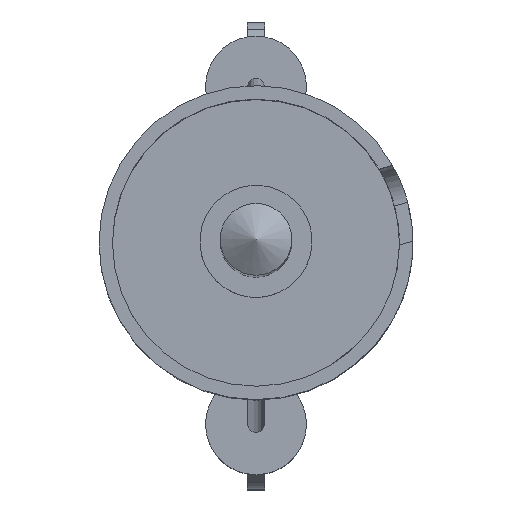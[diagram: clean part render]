
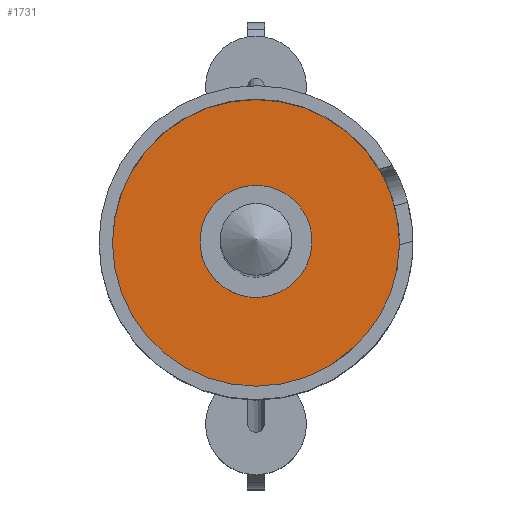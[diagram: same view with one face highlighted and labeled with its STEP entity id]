
A CAD part, top view. The second image highlights one B-rep face of the part: STEP entity #1731.
In plain terms, the highlighted planar face has unit normal (0, 0, 1).
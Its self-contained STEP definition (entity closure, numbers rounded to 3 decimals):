
#22 = CARTESIAN_POINT ( 'NONE',  ( -0.072, 1.921, 4. ) ) ;
#52 = CARTESIAN_POINT ( 'NONE',  ( -0.358, 2.161, 4. ) ) ;
#75 = CARTESIAN_POINT ( 'NONE',  ( -1.42, 0.95, 4. ) ) ;
#79 = CARTESIAN_POINT ( 'NONE',  ( -2.264, 0.169, 4. ) ) ;
#114 = CARTESIAN_POINT ( 'NONE',  ( -0.129, 1.891, 4. ) ) ;
#325 = EDGE_CURVE ( 'NONE', #6459, #6459, #1922, .T. ) ;
#451 = CARTESIAN_POINT ( 'NONE',  ( -1.708, 0.332, 4. ) ) ;
#475 = CARTESIAN_POINT ( 'NONE',  ( -0.364, 1.788, 4. ) ) ;
#505 = CARTESIAN_POINT ( 'NONE',  ( -2.19, -0.331, 4. ) ) ;
#536 = CARTESIAN_POINT ( 'NONE',  ( -0.054, 1.932, 4. ) ) ;
#558 = FACE_BOUND ( 'NONE', #4162, .T. ) ;
#601 = CARTESIAN_POINT ( 'NONE',  ( -0.532, 2.15, 4. ) ) ;
#732 = DIRECTION ( 'NONE',  ( 0., 0., 1. ) ) ;
#797 = CARTESIAN_POINT ( 'NONE',  ( 0., 0., 4. ) ) ;
#877 = CARTESIAN_POINT ( 'NONE',  ( 0., 0., 4. ) ) ;
#888 = CARTESIAN_POINT ( 'NONE',  ( 0., 0., 4. ) ) ;
#969 = CARTESIAN_POINT ( 'NONE',  ( -1.806, -0.684, 4. ) ) ;
#1022 = CARTESIAN_POINT ( 'NONE',  ( -1.825, 1.423, 4. ) ) ;
#1087 = VERTEX_POINT ( 'NONE', #1463 ) ;
#1126 = CARTESIAN_POINT ( 'NONE',  ( -2.089, 0.992, 4. ) ) ;
#1321 = DIRECTION ( 'NONE',  ( 0.866, -0.5, 0. ) ) ;
#1351 = CARTESIAN_POINT ( 'NONE',  ( -1.939, -0.747, 4. ) ) ;
#1463 = CARTESIAN_POINT ( 'NONE',  ( 1.6, 0., 4. ) ) ;
#1469 = CARTESIAN_POINT ( 'NONE',  ( -1.792, -0.343, 4. ) ) ;
#1503 = CARTESIAN_POINT ( 'NONE',  ( -0.865, 2.085, 4. ) ) ;
#1531 = CARTESIAN_POINT ( 'NONE',  ( -1.323, 1.875, 4. ) ) ;
#1592 = CARTESIAN_POINT ( 'NONE',  ( -0.956, 1.456, 4. ) ) ;
#1629 = CARTESIAN_POINT ( 'NONE',  ( -1.463, 1.777, 4. ) ) ;
#1731 = ADVANCED_FACE ( 'NONE', ( #5088, #558, #2579 ), #2783, .T. ) ;
#1922 = CIRCLE ( 'NONE', #4231, 6.4 ) ;
#2031 = CARTESIAN_POINT ( 'NONE',  ( -2.256, 0., 4. ) ) ;
#2058 = CARTESIAN_POINT ( 'NONE',  ( -0.02, 1.958, 4. ) ) ;
#2123 = CARTESIAN_POINT ( 'NONE',  ( -0.816, 1.554, 4. ) ) ;
#2161 = ORIENTED_EDGE ( 'NONE', *, *, #325, .F. ) ;
#2304 = EDGE_CURVE ( 'NONE', #4601, #4601, #4856, .T. ) ;
#2383 = CARTESIAN_POINT ( 'NONE',  ( -1.881, -0.776, 4. ) ) ;
#2418 = CARTESIAN_POINT ( 'NONE',  ( -1.592, 0.655, 4. ) ) ;
#2477 = CARTESIAN_POINT ( 'NONE',  ( -1.747, 0.165, 4. ) ) ;
#2543 = CIRCLE ( 'NONE', #4356, 1.6 ) ;
#2579 = FACE_OUTER_BOUND ( 'NONE', #5520, .T. ) ;
#2695 = EDGE_LOOP ( 'NONE', ( #4025 ) ) ;
#2783 = PLANE ( 'NONE',  #4124 ) ;
#2812 = DIRECTION ( 'NONE',  ( 0.866, -0.5, 0. ) ) ;
#2932 = ORIENTED_EDGE ( 'NONE', *, *, #2304, .T. ) ;
#3023 = CARTESIAN_POINT ( 'NONE',  ( -2.014, -0.671, 4. ) ) ;
#3049 = CARTESIAN_POINT ( 'NONE',  ( -0.521, 1.721, 4. ) ) ;
#3118 = CARTESIAN_POINT ( 'NONE',  ( -0.001, 2.038, 4. ) ) ;
#3487 = CARTESIAN_POINT ( 'NONE',  ( -1.42, 0.95, 4. ) ) ;
#3516 = CARTESIAN_POINT ( 'NONE',  ( -0.051, 2.079, 4. ) ) ;
#3545 = CARTESIAN_POINT ( 'NONE',  ( -1.022, 2.029, 4. ) ) ;
#3638 = CARTESIAN_POINT ( 'NONE',  ( 0.01, 2.016, 4. ) ) ;
#3859 = CARTESIAN_POINT ( 'NONE',  ( -1.856, -0.776, 4. ) ) ;
#3931 = DIRECTION ( 'NONE',  ( 1., 0., 0. ) ) ;
#3947 = CARTESIAN_POINT ( 'NONE',  ( 5.543, -3.2, 4. ) ) ;
#3979 = CARTESIAN_POINT ( 'NONE',  ( -1.79, -0.172, 4. ) ) ;
#4003 = CARTESIAN_POINT ( 'NONE',  ( -0.15, 2.118, 4. ) ) ;
#4025 = ORIENTED_EDGE ( 'NONE', *, *, #4755, .F. ) ;
#4040 = CARTESIAN_POINT ( 'NONE',  ( -2.134, -0.496, 4. ) ) ;
#4124 = AXIS2_PLACEMENT_3D ( 'NONE', #797, #732, #2812 ) ;
#4145 = CARTESIAN_POINT ( 'NONE',  ( -1.211, 1.223, 4. ) ) ;
#4162 = EDGE_LOOP ( 'NONE', ( #2932 ) ) ;
#4231 = AXIS2_PLACEMENT_3D ( 'NONE', #877, #4428, #1321 ) ;
#4356 = AXIS2_PLACEMENT_3D ( 'NONE', #888, #4437, #3931 ) ;
#4367 = CARTESIAN_POINT ( 'NONE',  ( -1.824, -0.748, 4. ) ) ;
#4398 = CARTESIAN_POINT ( 'NONE',  ( -1.987, -0.704, 4. ) ) ;
#4428 = DIRECTION ( 'NONE',  ( 0., 0., -1. ) ) ;
#4437 = DIRECTION ( 'NONE',  ( 0., 0., 1. ) ) ;
#4513 = CARTESIAN_POINT ( 'NONE',  ( -0.032, 2.068, 4. ) ) ;
#4601 = VERTEX_POINT ( 'NONE', #75 ) ;
#4755 = EDGE_CURVE ( 'NONE', #1087, #1087, #2543, .T. ) ;
#4856 = B_SPLINE_CURVE_WITH_KNOTS ( 'NONE', 3,
 ( #3487, #4952, #2418, #451, #2477, #3979, #1469, #6490, #6409, #5990, #969, #5495, #4367, #3859, #2383, #5868, #1351, #4398, #3023, #4040, #505, #2031, #79, #6049, #5612, #1126, #5129, #1022, #6516, #1629, #1531, #3545, #1503, #601, #52, #4003, #6019, #3516, #4513, #3118, #3638, #5550, #2058, #536, #22, #114, #6118, #475, #3049, #2123, #1592, #4145, #5064, #5008 ),
 .UNSPECIFIED., .T., .F.,
 ( 4, 2, 2, 2, 2, 2, 2, 2, 2, 2, 2, 2, 2, 2, 2, 2, 2, 2, 2, 2, 2, 2, 2, 2, 2, 2, 4 ),
 ( 0., 0.001, 0.001, 0.002, 0.002, 0.002, 0.002, 0.002, 0.002, 0.002, 0.003, 0.003, 0.004, 0.004, 0.005, 0.005, 0.006, 0.006, 0.006, 0.006, 0.006, 0.006, 0.007, 0.007, 0.007, 0.008, 0.008 ),
 .UNSPECIFIED. ) ;
#4952 = CARTESIAN_POINT ( 'NONE',  ( -1.516, 0.807, 4. ) ) ;
#5008 = CARTESIAN_POINT ( 'NONE',  ( -1.42, 0.95, 4. ) ) ;
#5064 = CARTESIAN_POINT ( 'NONE',  ( -1.324, 1.093, 4. ) ) ;
#5088 = FACE_BOUND ( 'NONE', #2695, .T. ) ;
#5129 = CARTESIAN_POINT ( 'NONE',  ( -2.012, 1.143, 4. ) ) ;
#5495 = CARTESIAN_POINT ( 'NONE',  ( -1.817, -0.726, 4. ) ) ;
#5520 = EDGE_LOOP ( 'NONE', ( #2161 ) ) ;
#5550 = CARTESIAN_POINT ( 'NONE',  ( -0.003, 1.974, 4. ) ) ;
#5612 = CARTESIAN_POINT ( 'NONE',  ( -2.201, 0.672, 4. ) ) ;
#5868 = CARTESIAN_POINT ( 'NONE',  ( -1.921, -0.76, 4. ) ) ;
#5990 = CARTESIAN_POINT ( 'NONE',  ( -1.803, -0.663, 4. ) ) ;
#6019 = CARTESIAN_POINT ( 'NONE',  ( -0.109, 2.106, 4. ) ) ;
#6049 = CARTESIAN_POINT ( 'NONE',  ( -2.237, 0.508, 4. ) ) ;
#6118 = CARTESIAN_POINT ( 'NONE',  ( -0.168, 1.874, 4. ) ) ;
#6409 = CARTESIAN_POINT ( 'NONE',  ( -1.797, -0.599, 4. ) ) ;
#6459 = VERTEX_POINT ( 'NONE', #3947 ) ;
#6490 = CARTESIAN_POINT ( 'NONE',  ( -1.796, -0.556, 4. ) ) ;
#6516 = CARTESIAN_POINT ( 'NONE',  ( -1.712, 1.552, 4. ) ) ;
